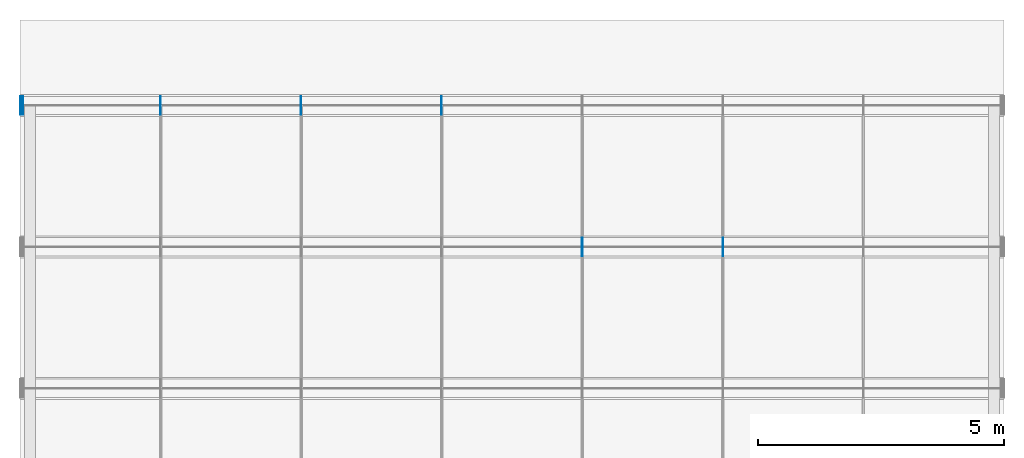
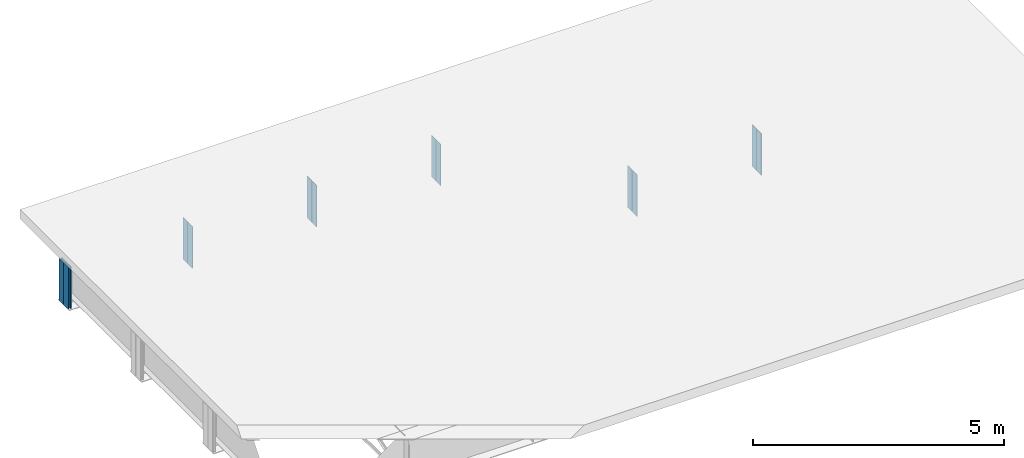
# One storey, part 10 of 12: 14 plates.
"""IFC4 building model written with IfcOpenShell, lengths in metres."""

from ifc_helpers import new_model, si_unit, frame, origin, origin_with_axes, origin_2d_with_axis, place, context, subcontext, project, spatial, rectangle, extrude, element, save


model = new_model("IFC4")

# Units and contexts
model_context = context("Model", 3, precision=1e-05, world=origin())
body_context = subcontext(model_context, "Body", "Model", "MODEL_VIEW")
ifc_project = project(units=[si_unit("LENGTHUNIT", "METRE"), si_unit("AREAUNIT", "SQUARE_METRE"), si_unit("VOLUMEUNIT", "CUBIC_METRE"), si_unit("PLANEANGLEUNIT", "RADIAN")], contexts=[model_context])

# Site, building, storey
site_placement = place(None, origin_with_axes())
site = spatial("IfcSite", under=ifc_project, at=site_placement, Name="Default Site")
building_placement = place(site_placement, origin_with_axes())
building = spatial("IfcBuilding", under=site, at=building_placement, Name="Bridge Structure")
storey_placement = place(building_placement, origin_with_axes())
storey = spatial("IfcBuildingStorey", under=building, at=storey_placement, Name="Superstructure")

# Plates
for number, where, z_axis, x_axis, name in (
    (1, (11.428, 1.53375, -0.506), (0.0, 0.0, 1.0), (1.0, 0.0, 0.0), "Intermediate Stiffener 3"),
    (2, (11.428, 1.34125, -0.506), (0.0, 0.0, 1.0), (1.0, 0.0, 0.0), "Intermediate Stiffener 3"),
    (3, (14.285, 1.53375, -0.506), (0.0, 0.0, 1.0), (1.0, 0.0, 0.0), "Intermediate Stiffener 3"),
    (4, (14.285, 1.34125, -0.506), (0.0, 0.0, 1.0), (1.0, 0.0, 0.0), "Intermediate Stiffener 3"),
    (5, (2.857, 4.40875, -0.506), (0.0, 0.0, 1.0), (1.0, 0.0, 0.0), "Intermediate Stiffener 4"),
    (6, (2.857, 4.2162500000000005, -0.506), (0.0, 0.0, 1.0), (1.0, 0.0, 0.0), "Intermediate Stiffener 4"),
    (7, (5.714, 4.40875, -0.506), (0.0, 0.0, 1.0), (1.0, 0.0, 0.0), "Intermediate Stiffener 4"),
    (8, (5.714, 4.2162500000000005, -0.506), (0.0, 0.0, 1.0), (1.0, 0.0, 0.0), "Intermediate Stiffener 4"),
    (9, (8.571, 4.40875, -0.506), (0.0, 0.0, 1.0), (1.0, 0.0, 0.0), "Intermediate Stiffener 4"),
    (10, (8.571, 4.2162500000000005, -0.506), (0.0, 0.0, 1.0), (1.0, 0.0, 0.0), "Intermediate Stiffener 4"),
):
    element("IfcPlate", number, at=place(storey_placement, frame(where, z_axis=z_axis, x_axis=x_axis)), inside=storey, Name=name, context=body_context, shape_type="SweptSolid", body=[
        extrude(rectangle(XDim=0.012, YDim=0.1825, at=origin_2d_with_axis()), origin_with_axes(), (0.0, 0.0, 1.0), 1.012),
    ])
for number, where, z_axis, x_axis, name in (
    (11, (0.01, 4.40875, -0.506), (0.0, 0.0, 1.0), (1.0, 0.0, 0.0), "End Stiffener 4"),
    (12, (0.01, 4.2162500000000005, -0.506), (0.0, 0.0, 1.0), (1.0, 0.0, 0.0), "End Stiffener 4"),
    (13, (0.06, 4.40875, -0.506), (0.0, 0.0, 1.0), (1.0, 0.0, 0.0), "End Stiffener 4"),
    (14, (0.06, 4.2162500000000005, -0.506), (0.0, 0.0, 1.0), (1.0, 0.0, 0.0), "End Stiffener 4"),
):
    element("IfcPlate", number, at=place(storey_placement, frame(where, z_axis=z_axis, x_axis=x_axis)), inside=storey, Name=name, context=body_context, shape_type="SweptSolid", body=[
        extrude(rectangle(XDim=0.02, YDim=0.1825, at=origin_2d_with_axis()), origin_with_axes(), (0.0, 0.0, 1.0), 1.012),
    ])

save(model, "model.ifc")
